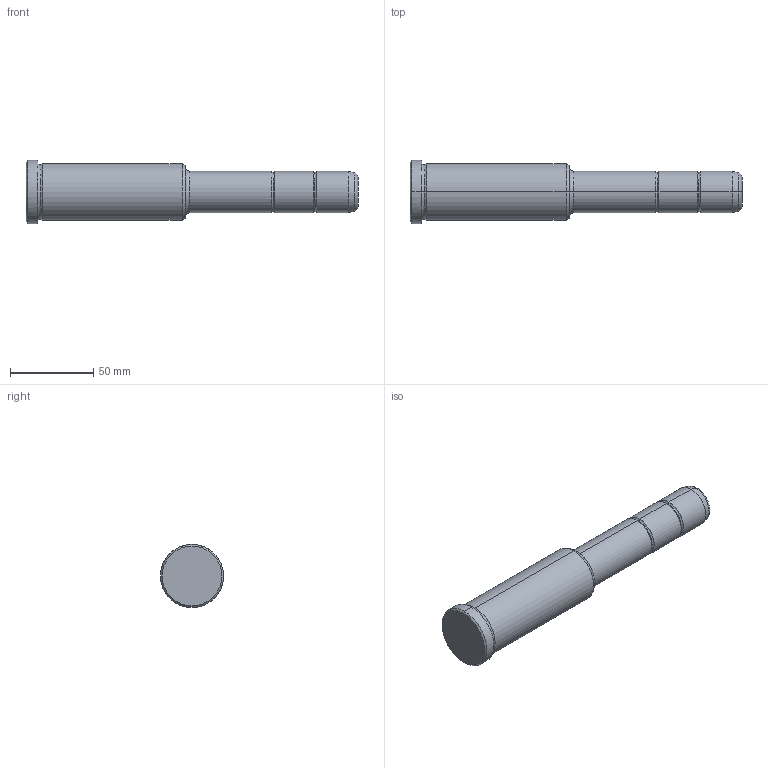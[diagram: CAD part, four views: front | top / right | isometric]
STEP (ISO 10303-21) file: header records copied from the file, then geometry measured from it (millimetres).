
FILE_DESCRIPTION(('CATIA V5 STEP Exchange'),'2;1');
FILE_NAME('C:\Users\Utente\Desktop\IO LAVORO\3D X SITO CF\X SITO\PLASTICA\351\351-25X96X200.stp','2021-09-07T12:19:03+00:00',('none'),('none'),'CATIA Version 5 Release 20 GA (IN-10)','CATIA V5 STEP AP203','none');
FILE_SCHEMA(('CONFIG_CONTROL_DESIGN'));
Length unit declared in the file: millimetre
Products named in the file (1): 351-25X96X200
Bounding box: 200 x 38 x 38 mm (x, y, z)
Volume: 139005.5 mm3; surface area: 20468.5 mm2
Topology: 1 solids, 1 shells, 36 faces, 102 edges, 70 vertices
Faces by surface type: torus 16, cylinder 10, cone 6, plane 4
Entity records: 1292 total; most frequent: CARTESIAN_POINT 321, ORIENTED_EDGE 204, DIRECTION 166, AXIS2_PLACEMENT_3D 115, EDGE_CURVE 102, CIRCLE 78, VERTEX_POINT 70, EDGE_LOOP 38
